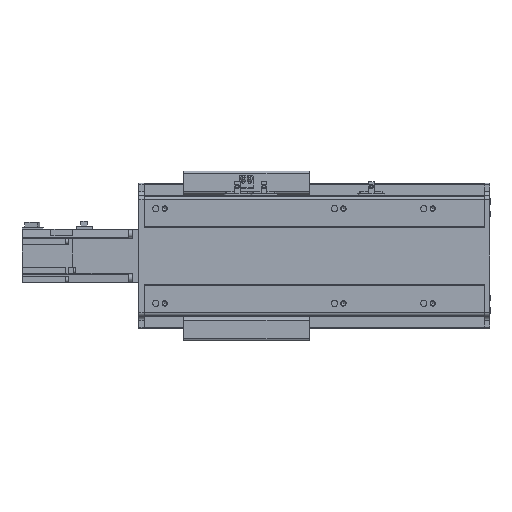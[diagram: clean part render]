
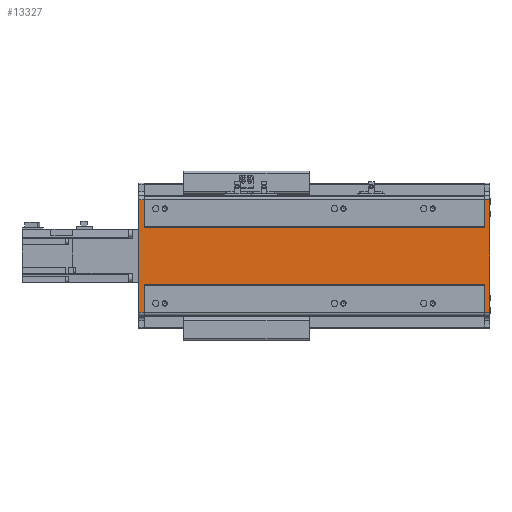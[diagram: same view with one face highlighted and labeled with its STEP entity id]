
A CAD part, front view. The second image highlights one B-rep face of the part: STEP entity #13327.
In plain terms, the highlighted planar face has unit normal (0, -1, 0).
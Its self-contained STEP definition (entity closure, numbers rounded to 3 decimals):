
#2855=ORIENTED_EDGE('',*,*,#5740,.T.);
#2856=ORIENTED_EDGE('',*,*,#5741,.F.);
#2857=ORIENTED_EDGE('',*,*,#5742,.F.);
#2858=ORIENTED_EDGE('',*,*,#5743,.F.);
#2859=ORIENTED_EDGE('',*,*,#5662,.F.);
#2860=ORIENTED_EDGE('',*,*,#5744,.F.);
#2861=ORIENTED_EDGE('',*,*,#5745,.F.);
#2862=ORIENTED_EDGE('',*,*,#5746,.T.);
#2863=ORIENTED_EDGE('',*,*,#5660,.T.);
#2864=ORIENTED_EDGE('',*,*,#5747,.T.);
#2865=ORIENTED_EDGE('',*,*,#5748,.F.);
#2866=ORIENTED_EDGE('',*,*,#5738,.T.);
#5660=EDGE_CURVE('',#7243,#7248,#8526,.T.);
#5662=EDGE_CURVE('',#7249,#7251,#8527,.T.);
#5738=EDGE_CURVE('',#7306,#7305,#8583,.T.);
#5740=EDGE_CURVE('',#7305,#7307,#8584,.T.);
#5741=EDGE_CURVE('',#7308,#7307,#8585,.T.);
#5742=EDGE_CURVE('',#7309,#7308,#8586,.T.);
#5743=EDGE_CURVE('',#7251,#7309,#8587,.T.);
#5744=EDGE_CURVE('',#7310,#7249,#8588,.T.);
#5745=EDGE_CURVE('',#7311,#7310,#8589,.T.);
#5746=EDGE_CURVE('',#7311,#7243,#8590,.T.);
#5747=EDGE_CURVE('',#7248,#7312,#8591,.T.);
#5748=EDGE_CURVE('',#7306,#7312,#8592,.T.);
#7243=VERTEX_POINT('',#21375);
#7248=VERTEX_POINT('',#21385);
#7249=VERTEX_POINT('',#21389);
#7251=VERTEX_POINT('',#21392);
#7305=VERTEX_POINT('',#21537);
#7306=VERTEX_POINT('',#21539);
#7307=VERTEX_POINT('',#21543);
#7308=VERTEX_POINT('',#21545);
#7309=VERTEX_POINT('',#21547);
#7310=VERTEX_POINT('',#21550);
#7311=VERTEX_POINT('',#21552);
#7312=VERTEX_POINT('',#21555);
#8526=LINE('',#21386,#9863);
#8527=LINE('',#21391,#9864);
#8583=LINE('',#21538,#9920);
#8584=LINE('',#21542,#9921);
#8585=LINE('',#21544,#9922);
#8586=LINE('',#21546,#9923);
#8587=LINE('',#21548,#9924);
#8588=LINE('',#21549,#9925);
#8589=LINE('',#21551,#9926);
#8590=LINE('',#21553,#9927);
#8591=LINE('',#21554,#9928);
#8592=LINE('',#21556,#9929);
#9863=VECTOR('',#17152,1000.);
#9864=VECTOR('',#17157,1000.);
#9920=VECTOR('',#17285,1000.);
#9921=VECTOR('',#17290,1000.);
#9922=VECTOR('',#17291,1000.);
#9923=VECTOR('',#17292,1000.);
#9924=VECTOR('',#17293,1000.);
#9925=VECTOR('',#17294,1000.);
#9926=VECTOR('',#17295,1000.);
#9927=VECTOR('',#17296,1000.);
#9928=VECTOR('',#17297,1000.);
#9929=VECTOR('',#17298,1000.);
#10900=EDGE_LOOP('',(#2855,#2856,#2857,#2858,#2859,#2860,#2861,#2862,#2863,
#2864,#2865,#2866));
#11901=FACE_BOUND('',#10900,.T.);
#12696=PLANE('',#14460);
#13327=ADVANCED_FACE('',(#11901),#12696,.F.);
#14460=AXIS2_PLACEMENT_3D('',#21541,#17288,#17289);
#17152=DIRECTION('',(0.,0.,-1.));
#17157=DIRECTION('',(0.,0.,1.));
#17285=DIRECTION('',(-1.,0.,0.));
#17288=DIRECTION('',(0.,1.,0.));
#17289=DIRECTION('',(0.,0.,1.));
#17290=DIRECTION('',(0.,0.,-1.));
#17291=DIRECTION('',(-1.,0.,0.));
#17292=DIRECTION('',(0.,0.,-1.));
#17293=DIRECTION('',(-1.,0.,0.));
#17294=DIRECTION('',(-1.,0.,0.));
#17295=DIRECTION('',(0.,0.,-1.));
#17296=DIRECTION('',(-1.,0.,0.));
#17297=DIRECTION('',(-1.,0.,0.));
#17298=DIRECTION('',(0.,0.,-1.));
#21375=CARTESIAN_POINT('',(386.5,1.,63.128));
#21385=CARTESIAN_POINT('',(386.5,1.,32.));
#21386=CARTESIAN_POINT('',(386.5,1.,63.128));
#21389=CARTESIAN_POINT('',(386.5,1.,-63.128));
#21391=CARTESIAN_POINT('',(386.5,1.,66.5));
#21392=CARTESIAN_POINT('',(386.5,1.,-32.));
#21537=CARTESIAN_POINT('',(0.,1.,63.128));
#21538=CARTESIAN_POINT('',(6.,1.,63.128));
#21539=CARTESIAN_POINT('',(6.,1.,63.128));
#21541=CARTESIAN_POINT('',(6.,1.,63.128));
#21542=CARTESIAN_POINT('',(0.,1.,63.128));
#21543=CARTESIAN_POINT('',(0.,1.,-63.128));
#21544=CARTESIAN_POINT('',(6.,1.,-63.128));
#21545=CARTESIAN_POINT('',(6.,1.,-63.128));
#21546=CARTESIAN_POINT('',(6.,1.,63.128));
#21547=CARTESIAN_POINT('',(6.,1.,-32.));
#21548=CARTESIAN_POINT('',(386.5,1.,-32.));
#21549=CARTESIAN_POINT('',(392.5,1.,-63.128));
#21550=CARTESIAN_POINT('',(392.5,1.,-63.128));
#21551=CARTESIAN_POINT('',(392.5,1.,63.128));
#21552=CARTESIAN_POINT('',(392.5,1.,63.128));
#21553=CARTESIAN_POINT('',(392.5,1.,63.128));
#21554=CARTESIAN_POINT('',(386.5,1.,32.));
#21555=CARTESIAN_POINT('',(6.,1.,32.));
#21556=CARTESIAN_POINT('',(6.,1.,63.128));
